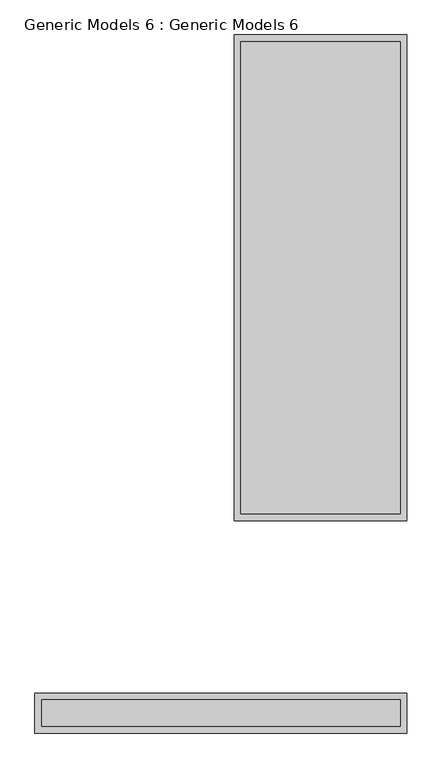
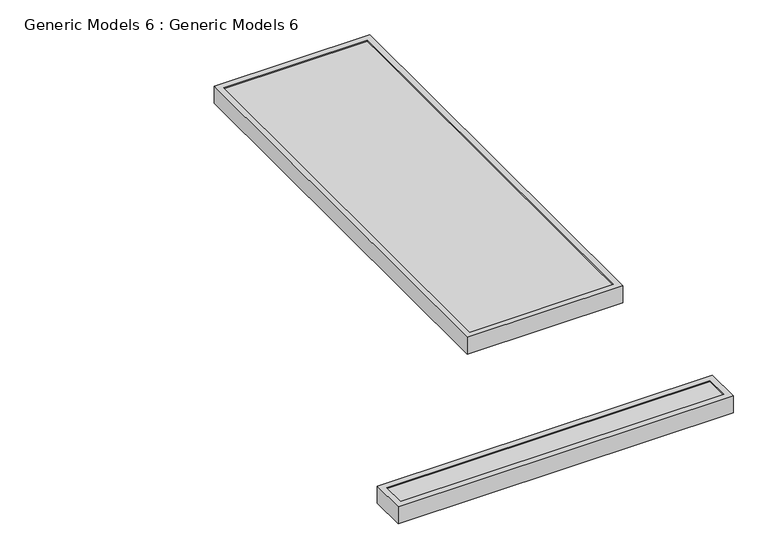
"""IFC4 building model written with IfcOpenShell, lengths in millimetres: proxy geometry, Generic Models 6 : Generic Models 6."""

from ifc_helpers import new_model, si_unit, origin, place, context, project, spatial, faceted_brep, source, transform, mapped, element, save


def generic_models_6_generic_models_6_396b13c4(model_context):
    return source(origin(), model_context, "Body", "Brep", [
        faceted_brep([(24543.1337784, 11342.257391, 1150.0), (23243.1337784, 11342.257391, 1150.0), (23243.1337784, 7684.657391, 1150.0), (24543.1337784, 7684.657391, 1150.0), (23293.1337784, 11292.257391, 1150.0), (24493.1337784, 11292.257391, 1150.0), (24493.1337784, 7734.657391, 1150.0), (23293.1337784, 7734.657391, 1150.0), (24543.1337784, 11342.257391, 1000.0), (24543.1337784, 7684.657391, 1000.0), (23243.1337784, 7684.657391, 1000.0), (23243.1337784, 11342.257391, 1000.0), (23293.1337784, 11292.257391, 1140.0), (23293.1337784, 7734.657391, 1140.0), (24493.1337784, 7734.657391, 1140.0), (24493.1337784, 11292.257391, 1140.0)], [[[0, 1, 2, 3], [4, 5, 6, 7]], [[8, 9, 10, 11]], [[1, 0, 8, 11]], [[2, 1, 11, 10]], [[3, 2, 10, 9]], [[0, 3, 9, 8]], [[12, 13, 14, 15]], [[12, 15, 5, 4]], [[15, 14, 6, 5]], [[14, 13, 7, 6]], [[13, 12, 4, 7]]]),
        faceted_brep([(24543.1337784, 6384.657391, 1150.0), (21743.1337784, 6384.657391, 1150.0), (21743.1337784, 6084.657391, 1150.0), (24543.1337784, 6084.657391, 1150.0), (21793.1337784, 6334.657391, 1150.0), (24493.1337784, 6334.657391, 1150.0), (24493.1337784, 6134.657391, 1150.0), (21793.1337784, 6134.657391, 1150.0), (24543.1337784, 6384.657391, 1000.0), (24543.1337784, 6084.657391, 1000.0), (21743.1337784, 6084.657391, 1000.0), (21743.1337784, 6384.657391, 1000.0), (21793.1337784, 6334.657391, 1140.0), (21793.1337784, 6134.657391, 1140.0), (24493.1337784, 6134.657391, 1140.0), (24493.1337784, 6334.657391, 1140.0)], [[[0, 1, 2, 3], [4, 5, 6, 7]], [[8, 9, 10, 11]], [[1, 0, 8, 11]], [[2, 1, 11, 10]], [[3, 2, 10, 9]], [[0, 3, 9, 8]], [[12, 13, 14, 15]], [[12, 15, 5, 4]], [[15, 14, 6, 5]], [[14, 13, 7, 6]], [[13, 12, 4, 7]]]),
    ])


if __name__ == "__main__":
    model = new_model("IFC4")
    model_context = context("Model", 3, world=origin())
    ifc_project = project(units=[si_unit("LENGTHUNIT", "METRE", prefix="MILLI")], contexts=[model_context])
    site = spatial("IfcSite", under=ifc_project)
    building = spatial("IfcBuilding", under=site)
    placement = place(None, origin())
    generic_models_6_generic_models_6_shape = generic_models_6_generic_models_6_396b13c4(model_context)
    element("IfcBuildingElementProxy", 1, Name="Generic Models 6 : Generic Models 6", ObjectType="Generic Models 6 : Generic Models 6", at=placement, inside=building, context=model_context, shape_type="MappedRepresentation", body=[
        mapped(generic_models_6_generic_models_6_shape, transform((0.0, 0.0, 0.0), x_axis=(1.0, 0.0, 0.0), y_axis=(0.0, 1.0, 0.0), z_axis=(0.0, 0.0, 1.0))),
    ])
    save(model, "model.ifc")
